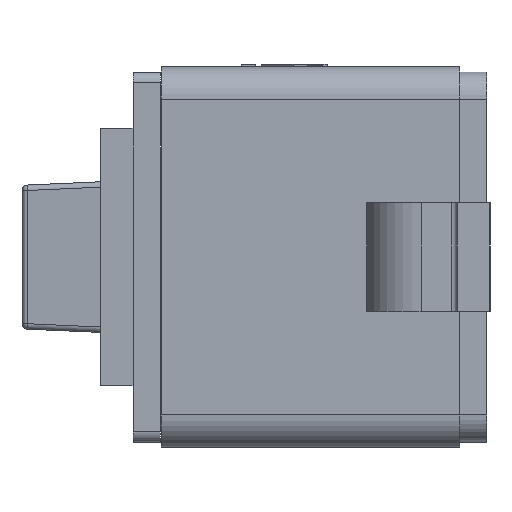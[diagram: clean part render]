
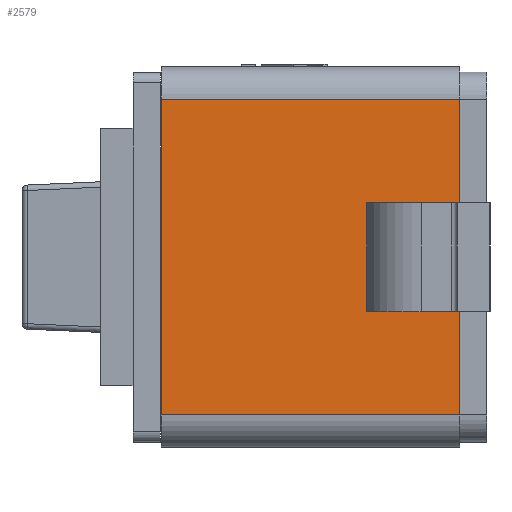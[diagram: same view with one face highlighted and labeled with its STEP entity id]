
A CAD part, left-side view. The second image highlights one B-rep face of the part: STEP entity #2579.
In plain terms, the highlighted planar face has unit normal (-1, 0, 0).
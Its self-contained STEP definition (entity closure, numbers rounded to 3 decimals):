
#337=DIRECTION('',(0.,0.,-1.));
#338=VECTOR('',#337,2.9);
#339=CARTESIAN_POINT('',(-3.05,0.25,1.45));
#340=LINE('',#339,#338);
#341=DIRECTION('',(0.,-1.,0.));
#342=VECTOR('',#341,2.74);
#343=CARTESIAN_POINT('',(-3.05,2.99,1.45));
#344=LINE('',#343,#342);
#345=DIRECTION('',(0.,-1.,0.));
#346=VECTOR('',#345,2.74);
#347=CARTESIAN_POINT('',(-3.05,2.99,-1.45));
#348=LINE('',#347,#346);
#387=DIRECTION('',(0.,0.,-1.));
#388=VECTOR('',#387,2.9);
#389=CARTESIAN_POINT('',(-3.05,2.99,1.45));
#390=LINE('',#389,#388);
#1122=DIRECTION('',(0.,1.,0.));
#1123=VECTOR('',#1122,0.33);
#1124=CARTESIAN_POINT('',(-3.05,0.772,-0.5));
#1125=LINE('',#1124,#1123);
#1141=DIRECTION('',(0.,0.,-1.));
#1142=VECTOR('',#1141,1.);
#1143=CARTESIAN_POINT('',(-3.05,0.772,0.5));
#1144=LINE('',#1143,#1142);
#1193=DIRECTION('',(0.,0.,1.));
#1194=VECTOR('',#1193,1.);
#1195=CARTESIAN_POINT('',(-3.05,1.102,-0.5));
#1196=LINE('',#1195,#1194);
#1241=DIRECTION('',(0.,-1.,0.));
#1242=VECTOR('',#1241,0.33);
#1243=CARTESIAN_POINT('',(-3.05,1.102,0.5));
#1244=LINE('',#1243,#1242);
#1770=CARTESIAN_POINT('',(-3.05,0.25,-1.45));
#1772=VERTEX_POINT('',#1770);
#1773=CARTESIAN_POINT('',(-3.05,0.25,1.45));
#1775=VERTEX_POINT('',#1773);
#1793=CARTESIAN_POINT('',(-3.05,2.99,1.45));
#1794=VERTEX_POINT('',#1793);
#1797=CARTESIAN_POINT('',(-3.05,0.772,-0.5));
#1798=CARTESIAN_POINT('',(-3.05,1.102,-0.5));
#1799=VERTEX_POINT('',#1797);
#1800=VERTEX_POINT('',#1798);
#1803=CARTESIAN_POINT('',(-3.05,2.99,-1.45));
#1804=VERTEX_POINT('',#1803);
#2011=CARTESIAN_POINT('',(-3.05,0.772,0.5));
#2012=VERTEX_POINT('',#2011);
#2027=CARTESIAN_POINT('',(-3.05,1.102,0.5));
#2028=VERTEX_POINT('',#2027);
#2556=CARTESIAN_POINT('',(-3.05,1.62,0.));
#2557=DIRECTION('',(1.,0.,0.));
#2558=DIRECTION('',(0.,0.,1.));
#2559=AXIS2_PLACEMENT_3D('',#2556,#2557,#2558);
#2560=PLANE('',#2559);
#2561=ORIENTED_EDGE('',*,*,#2368,.T.);
#2563=ORIENTED_EDGE('',*,*,#2562,.F.);
#2565=ORIENTED_EDGE('',*,*,#2564,.F.);
#2566=ORIENTED_EDGE('',*,*,#2548,.T.);
#2567=EDGE_LOOP('',(#2561,#2563,#2565,#2566));
#2568=FACE_OUTER_BOUND('',#2567,.F.);
#2570=ORIENTED_EDGE('',*,*,#2569,.F.);
#2572=ORIENTED_EDGE('',*,*,#2571,.F.);
#2574=ORIENTED_EDGE('',*,*,#2573,.F.);
#2576=ORIENTED_EDGE('',*,*,#2575,.F.);
#2577=EDGE_LOOP('',(#2570,#2572,#2574,#2576));
#2578=FACE_BOUND('',#2577,.F.);
#2368=EDGE_CURVE('',#1775,#1772,#340,.T.);
#2548=EDGE_CURVE('',#1794,#1775,#344,.T.);
#2562=EDGE_CURVE('',#1804,#1772,#348,.T.);
#2564=EDGE_CURVE('',#1794,#1804,#390,.T.);
#2569=EDGE_CURVE('',#1799,#1800,#1125,.T.);
#2571=EDGE_CURVE('',#2012,#1799,#1144,.T.);
#2573=EDGE_CURVE('',#2028,#2012,#1244,.T.);
#2575=EDGE_CURVE('',#1800,#2028,#1196,.T.);
#2579=ADVANCED_FACE('',(#2568,#2578),#2560,.F.);
